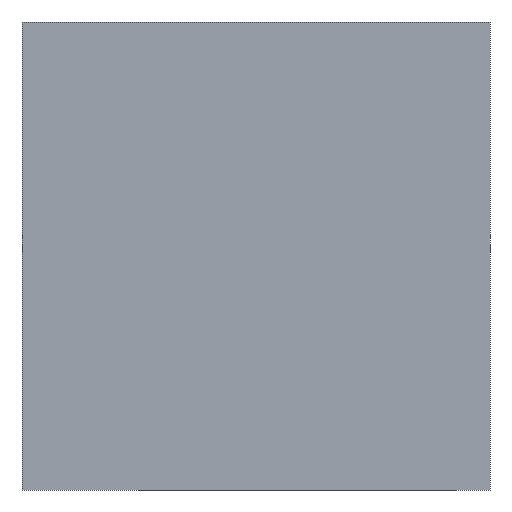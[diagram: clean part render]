
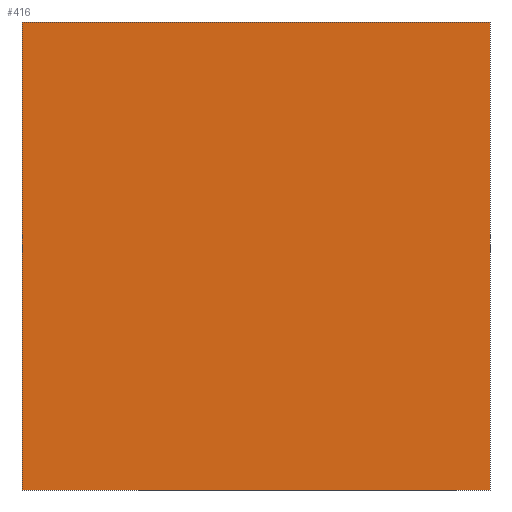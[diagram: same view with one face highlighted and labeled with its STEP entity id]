
A CAD part, front view. The second image highlights one B-rep face of the part: STEP entity #416.
In plain terms, the highlighted planar face has unit normal (0, -1, 0).
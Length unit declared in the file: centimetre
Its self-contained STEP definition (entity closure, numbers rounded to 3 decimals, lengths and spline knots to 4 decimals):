
#4 = EDGE_CURVE ( 'NONE', #419, #489, #78, .T. ) ;
#7 = VECTOR ( 'NONE', #446, 100. ) ;
#14 = VECTOR ( 'NONE', #223, 100. ) ;
#18 = ORIENTED_EDGE ( 'NONE', *, *, #377, .T. ) ;
#20 = VECTOR ( 'NONE', #116, 100. ) ;
#34 = PLANE ( 'NONE',  #40 ) ;
#40 = AXIS2_PLACEMENT_3D ( 'NONE', #227, #118, #392 ) ;
#78 = LINE ( 'NONE', #199, #20 ) ;
#116 = DIRECTION ( 'NONE',  ( 0., 0., -1. ) ) ;
#118 = DIRECTION ( 'NONE',  ( 0., 1., 0. ) ) ;
#133 = LINE ( 'NONE', #292, #7 ) ;
#146 = EDGE_CURVE ( 'NONE', #421, #214, #133, .T. ) ;
#147 = CARTESIAN_POINT ( 'NONE',  ( 0., 0., 0. ) ) ;
#186 = EDGE_CURVE ( 'NONE', #419, #421, #205, .T. ) ;
#199 = CARTESIAN_POINT ( 'NONE',  ( 0., 0., 1000. ) ) ;
#205 = LINE ( 'NONE', #449, #411 ) ;
#210 = EDGE_LOOP ( 'NONE', ( #18, #218, #314, #381 ) ) ;
#214 = VERTEX_POINT ( 'NONE', #476 ) ;
#218 = ORIENTED_EDGE ( 'NONE', *, *, #146, .F. ) ;
#223 = DIRECTION ( 'NONE',  ( 1., 0., 0. ) ) ;
#225 = CARTESIAN_POINT ( 'NONE',  ( 0., 0., 0. ) ) ;
#227 = CARTESIAN_POINT ( 'NONE',  ( 0., 0., 1000. ) ) ;
#256 = DIRECTION ( 'NONE',  ( 1., 0., 0. ) ) ;
#277 = CARTESIAN_POINT ( 'NONE',  ( 1000., 0., 1000. ) ) ;
#292 = CARTESIAN_POINT ( 'NONE',  ( 1000., 0., 1000. ) ) ;
#314 = ORIENTED_EDGE ( 'NONE', *, *, #186, .F. ) ;
#317 = LINE ( 'NONE', #147, #14 ) ;
#377 = EDGE_CURVE ( 'NONE', #489, #214, #317, .T. ) ;
#381 = ORIENTED_EDGE ( 'NONE', *, *, #4, .T. ) ;
#392 = DIRECTION ( 'NONE',  ( 0., 0., 1. ) ) ;
#411 = VECTOR ( 'NONE', #256, 100. ) ;
#416 = ADVANCED_FACE ( 'NONE', ( #474 ), #34, .F. ) ;
#419 = VERTEX_POINT ( 'NONE', #467 ) ;
#421 = VERTEX_POINT ( 'NONE', #277 ) ;
#446 = DIRECTION ( 'NONE',  ( 0., 0., -1. ) ) ;
#449 = CARTESIAN_POINT ( 'NONE',  ( 0., 0., 1000. ) ) ;
#467 = CARTESIAN_POINT ( 'NONE',  ( 0., 0., 1000. ) ) ;
#474 = FACE_OUTER_BOUND ( 'NONE', #210, .T. ) ;
#476 = CARTESIAN_POINT ( 'NONE',  ( 1000., 0., 0. ) ) ;
#489 = VERTEX_POINT ( 'NONE', #225 ) ;
